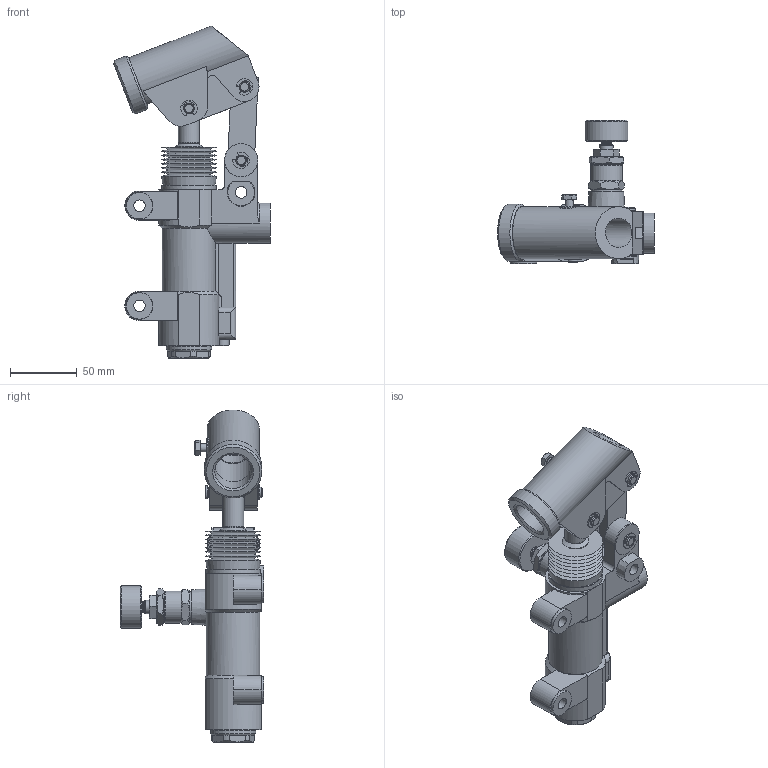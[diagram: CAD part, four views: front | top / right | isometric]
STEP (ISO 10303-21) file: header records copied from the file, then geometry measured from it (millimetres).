
FILE_DESCRIPTION(/* description */ ('Unknown'),/* implementation_level */ '2;1');
FILE_NAME(/* name */ 'HP20RS',/* time_stamp */ '2024-11-27T13:40:32+01:00',/* author */ ('Unknown'),/* organization */ ('Unknown'),/* preprocessor_version */ 'ST-DEVELOPER v19.4',/* originating_system */ 'Solid Edge',/* authorisation */ 'Unknown');
FILE_SCHEMA (('AUTOMOTIVE_DESIGN {1 0 10303 214 3 1 1}'));
Length unit declared in the file: millimetre
Products named in the file (1): HP20RS
Bounding box: 117.46 x 107.55 x 248.52 mm (x, y, z)
Volume: 436755 mm3; surface area: 124447.9 mm2
Topology: 7 solids, 7 shells, 541 faces, 1329 edges, 849 vertices
Faces by surface type: plane 225, cylinder 183, cone 99, torus 23, bspline 8, sphere 3
Full cylindrical faces by diameter (mm): 1.8 x2, 2 x2, 3 x2, 4 x1, 4.917 x1, 5 x1, 5.1 x3, 5.15 x1, 5.994 x5, 7.792 x6, 7.8 x1, 7.95 x1, 8 x5, 8.092 x6, 8.1 x1, 8.6 x3, 8.7 x1, 9.99 x3, 10 x4, 11 x2, 12.2 x2, 13 x1, 13.8 x1, 14.5 x1, 14.9 x3, 14.95 x2, 15 x1, 15.2 x1, 15.8 x1, 16 x3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
Entity records: 19299 total; most frequent: CARTESIAN_POINT 4690, DIRECTION 2467, ORIENTED_EDGE 2090, EDGE_CURVE 1045, AXIS2_PLACEMENT_3D 1036, FACE_BOUND 835, EDGE_LOOP 834, VERTEX_POINT 758
